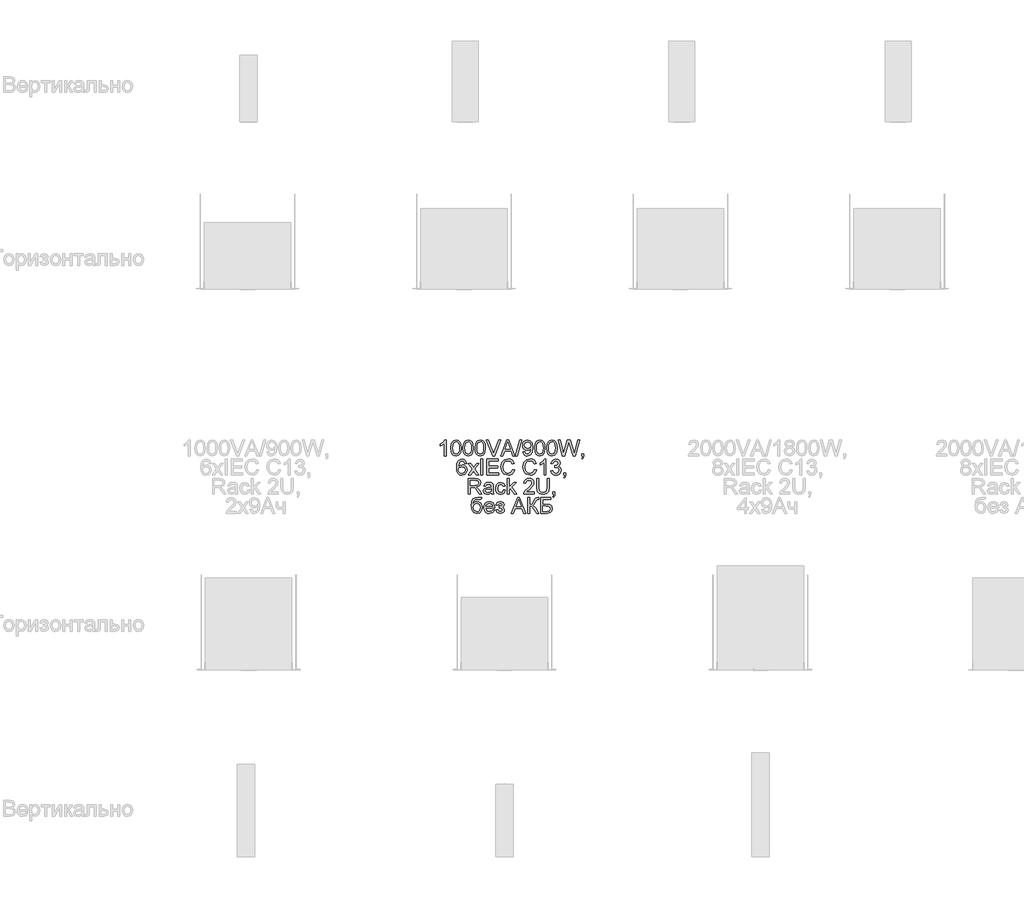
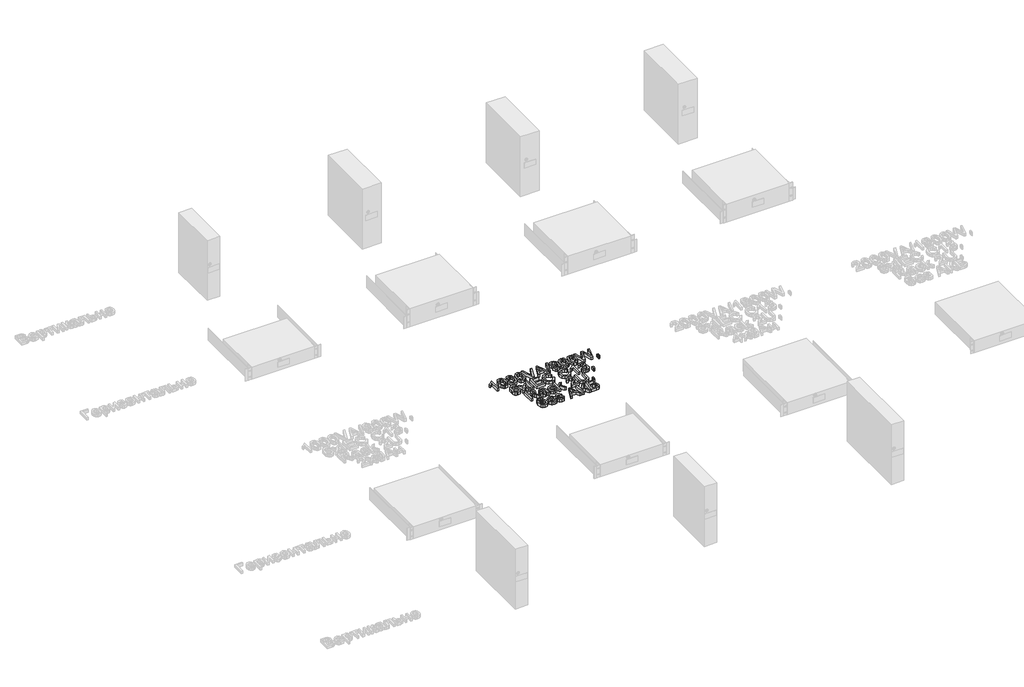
# One storey, part 66 of 74: 1 proxy.
"""IFC4 building model written with IfcOpenShell, lengths in millimetres."""

from ifc_helpers import new_model, si_unit, origin, origin_with_axes, place, context, project, spatial, polyline, outline, extrude, element, save

model = new_model("IFC4")

# Units and contexts
model_context = context("Model", 3, world=origin())
ifc_project = project(units=[si_unit("LENGTHUNIT", "METRE", prefix="MILLI")], contexts=[model_context])

# Site, building, storey
site = spatial("IfcSite", under=ifc_project)
building = spatial("IfcBuilding", under=site)
storey = spatial("IfcBuildingStorey", under=building, Name="Этаж 01", Elevation=0.0)

# Proxy
placement = place(None, origin())
element("IfcBuildingElementProxy", 1, Name="80 мм Arial", ObjectType="80 мм Arial", at=placement, inside=storey, context=model_context, shape_type="SweptSolid", body=[
    extrude(outline(polyline([(2356.0651374, 2262.3651415), (2346.0195064, 2262.3651415), (2346.0195064, 2324.9933724), (2336.5036255, 2318.2145335), (2325.9282444, 2313.142667), (2325.9282444, 2322.6389276), (2340.6533344, 2332.0370863), (2349.5904143, 2342.7301896), (2356.0651374, 2342.7301896), (2356.0651374, 2262.3651415)])), origin_with_axes(), (0.0, 0.0, 1.0), 20.0),
    extrude(outline(polyline([(2379.9235111, 2301.9001933), (2382.8763772, 2325.0228029), (2391.646684, 2338.3548465), (2406.2932925, 2342.7301896), (2418.0262756, 2340.1403004), (2426.1294897, 2332.6747484), (2430.8383792, 2320.7848024), (2432.6630739, 2301.9001933), (2429.7396383, 2278.8756855), (2420.9987621, 2265.5142114), (2406.2932925, 2261.1094377), (2395.855254, 2263.022424), (2387.9286233, 2268.7613832), (2381.9247891, 2282.3533966), (2379.9235111, 2301.9001933)]), holes=[polyline([(2389.9691421, 2301.9198136), (2391.1463645, 2286.1180557), (2394.6780316, 2276.9725093), (2406.2932925, 2271.1550687), (2417.9085534, 2276.9921297), (2421.4402205, 2286.1425811), (2422.6174429, 2301.9198136), (2421.4794613, 2317.3659524), (2418.0655163, 2326.5826226), (2412.8170665, 2331.1590746), (2406.1755703, 2332.6845586), (2394.8349946, 2327.3085764), (2391.1856052, 2317.5180102), (2389.9691421, 2301.9198136)])]), origin_with_axes(), (0.0, 0.0, 1.0), 20.0),
    extrude(outline(polyline([(2441.453001, 2301.9001933), (2444.4058672, 2325.0228029), (2453.176174, 2338.3548465), (2467.8227825, 2342.7301896), (2479.5557656, 2340.1403004), (2487.6589796, 2332.6747484), (2492.3678692, 2320.7848024), (2494.1925639, 2301.9001933), (2491.2691283, 2278.8756855), (2482.5282521, 2265.5142114), (2467.8227825, 2261.1094377), (2457.384744, 2263.022424), (2449.4581133, 2268.7613832), (2443.4542791, 2282.3533966), (2441.453001, 2301.9001933)]), holes=[polyline([(2451.4986321, 2301.9198136), (2452.6758544, 2286.1180557), (2456.2075216, 2276.9725093), (2467.8227825, 2271.1550687), (2479.4380433, 2276.9921297), (2482.9697105, 2286.1425811), (2484.1469329, 2301.9198136), (2483.0089512, 2317.3659524), (2479.5950063, 2326.5826226), (2474.3465565, 2331.1590746), (2467.7050602, 2332.6845586), (2456.3644846, 2327.3085764), (2452.7150952, 2317.5180102), (2451.4986321, 2301.9198136)])]), origin_with_axes(), (0.0, 0.0, 1.0), 20.0),
    extrude(outline(polyline([(2502.982491, 2301.9001933), (2505.9353572, 2325.0228029), (2514.7056639, 2338.3548465), (2529.3522724, 2342.7301896), (2541.0852555, 2340.1403004), (2549.1884696, 2332.6747484), (2553.8973591, 2320.7848024), (2555.7220538, 2301.9001933), (2552.7986183, 2278.8756855), (2544.0577421, 2265.5142114), (2529.3522724, 2261.1094377), (2518.914234, 2263.022424), (2510.9876032, 2268.7613832), (2504.9837691, 2282.3533966), (2502.982491, 2301.9001933)]), holes=[polyline([(2513.028122, 2301.9198136), (2514.2053444, 2286.1180557), (2517.7370116, 2276.9725093), (2529.3522724, 2271.1550687), (2540.9675333, 2276.9921297), (2544.4992004, 2286.1425811), (2545.6764228, 2301.9198136), (2544.5384412, 2317.3659524), (2541.1244963, 2326.5826226), (2535.8760465, 2331.1590746), (2529.2345502, 2332.6845586), (2517.8939746, 2327.3085764), (2514.2445852, 2317.5180102), (2513.028122, 2301.9198136)])]), origin_with_axes(), (0.0, 0.0, 1.0), 20.0),
    extrude(outline(polyline([(2592.019744, 2262.3651415), (2560.0385359, 2342.7301896), (2570.7905004, 2342.7301896), (2592.1963274, 2284.8304687), (2596.5324298, 2271.7829206), (2600.8096712, 2284.8304687), (2622.2743593, 2342.7301896), (2633.0263238, 2342.7301896), (2602.3989214, 2262.3651415), (2592.019744, 2262.3651415)])), origin_with_axes(), (0.0, 0.0, 1.0), 20.0),
    extrude(outline(polyline([(2633.0067034, 2262.3651415), (2665.0860134, 2342.7301896), (2673.640496, 2342.7301896), (2705.719806, 2262.3651415), (2695.1051842, 2262.3651415), (2685.9032292, 2287.4792191), (2652.8036598, 2287.4792191), (2643.6213252, 2262.3651415), (2633.0067034, 2262.3651415)]), holes=[polyline([(2656.49229, 2297.5248501), (2682.2342194, 2297.5248501), (2674.9943018, 2317.2825658), (2669.3632547, 2332.6845586), (2664.3600596, 2319.0091586), (2656.49229, 2297.5248501)])]), origin_with_axes(), (0.0, 0.0, 1.0), 20.0),
    extrude(outline(polyline([(2707.6622229, 2262.3651415), (2730.2648927, 2342.7301896), (2739.3295051, 2342.7301896), (2716.7268353, 2262.3651415), (2707.6622229, 2262.3651415)])), origin_with_axes(), (0.0, 0.0, 1.0), 20.0),
    extrude(outline(polyline([(2745.3333393, 2282.4564036), (2755.3789703, 2283.7121074), (2759.8916561, 2274.1275552), (2768.4461387, 2271.1550687), (2776.5787834, 2273.068055), (2782.0921082, 2278.1791622), (2785.3785207, 2286.9102282), (2786.8304283, 2298.5647299), (2786.7715672, 2300.5267672), (2778.7370244, 2292.9140624), (2767.7201849, 2289.9906268), (2758.5599233, 2291.7760808), (2750.9349558, 2297.1324426), (2745.7919655, 2305.407335), (2744.0776354, 2315.9483804), (2745.8753521, 2326.8376875), (2751.2685021, 2335.3725497), (2759.3692636, 2340.8907797), (2769.2898148, 2342.7301896), (2783.6028769, 2338.5314298), (2793.4523042, 2326.5630022), (2796.8171982, 2304.0780547), (2793.4621144, 2279.6801208), (2783.4851547, 2265.8575679), (2767.9752498, 2261.1094377), (2759.3864315, 2262.5098418), (2752.5340162, 2266.7110542), (2745.3333393, 2282.4564036)]), holes=[polyline([(2786.7715672, 2316.1838249), (2782.4354647, 2328.2307339), (2770.9183057, 2332.6845586), (2758.8321559, 2327.8873774), (2754.1232664, 2315.4578711), (2758.5770911, 2304.3233094), (2770.6436205, 2300.0362578), (2782.2294508, 2304.3233094), (2786.7715672, 2316.1838249)])]), origin_with_axes(), (0.0, 0.0, 1.0), 20.0),
    extrude(outline(polyline([(2805.6071253, 2301.9001933), (2808.5599915, 2325.0228029), (2817.3302983, 2338.3548465), (2831.9769068, 2342.7301896), (2843.7098899, 2340.1403004), (2851.8131039, 2332.6747484), (2856.5219935, 2320.7848024), (2858.3466882, 2301.9001933), (2855.4232526, 2278.8756855), (2846.6823764, 2265.5142114), (2831.9769068, 2261.1094377), (2821.5388683, 2263.022424), (2813.6122376, 2268.7613832), (2807.6084034, 2282.3533966), (2805.6071253, 2301.9001933)]), holes=[polyline([(2815.6527564, 2301.9198136), (2816.8299787, 2286.1180557), (2820.3616459, 2276.9725093), (2831.9769068, 2271.1550687), (2843.5921676, 2276.9921297), (2847.1238348, 2286.1425811), (2848.3010572, 2301.9198136), (2847.1630755, 2317.3659524), (2843.7491306, 2326.5826226), (2838.5006808, 2331.1590746), (2831.8591845, 2332.6845586), (2820.5186089, 2327.3085764), (2816.8692195, 2317.5180102), (2815.6527564, 2301.9198136)])]), origin_with_axes(), (0.0, 0.0, 1.0), 20.0),
    extrude(outline(polyline([(2867.1366153, 2301.9001933), (2870.0894815, 2325.0228029), (2878.8597882, 2338.3548465), (2893.5063967, 2342.7301896), (2905.2393798, 2340.1403004), (2913.3425939, 2332.6747484), (2918.0514834, 2320.7848024), (2919.8761781, 2301.9001933), (2916.9527425, 2278.8756855), (2908.2118663, 2265.5142114), (2893.5063967, 2261.1094377), (2883.0683582, 2263.022424), (2875.1417275, 2268.7613832), (2869.1378934, 2282.3533966), (2867.1366153, 2301.9001933)]), holes=[polyline([(2877.1822463, 2301.9198136), (2878.3594687, 2286.1180557), (2881.8911359, 2276.9725093), (2893.5063967, 2271.1550687), (2905.1216576, 2276.9921297), (2908.6533247, 2286.1425811), (2909.8305471, 2301.9198136), (2908.6925655, 2317.3659524), (2905.2786206, 2326.5826226), (2900.0301708, 2331.1590746), (2893.3886745, 2332.6845586), (2882.0480988, 2327.3085764), (2878.3987095, 2317.5180102), (2877.1822463, 2301.9198136)])]), origin_with_axes(), (0.0, 0.0, 1.0), 20.0),
    extrude(outline(polyline([(2946.8149504, 2262.3651415), (2924.8989936, 2342.7301896), (2935.2585506, 2342.7301896), (2947.9725524, 2289.9121453), (2951.896627, 2273.6076153), (2956.0953868, 2288.0285895), (2972.0271298, 2342.7301896), (2986.9582337, 2342.7301896), (2998.5342538, 2303.0774157), (3007.1475976, 2273.6076153), (3010.95395, 2289.4412564), (3023.7856739, 2342.7301896), (3034.1452309, 2342.7301896), (3012.2096538, 2262.3651415), (3001.4773098, 2262.3651415), (2982.2101034, 2324.3655204), (2979.5221123, 2333.018105), (2976.5005748, 2322.5996869), (2958.9403409, 2262.3651415), (2946.8149504, 2262.3651415)])), origin_with_axes(), (0.0, 0.0, 1.0), 20.0),
    extrude(outline(polyline([(3045.4465658, 2262.3651415), (3045.4465658, 2272.4107725), (3055.4921968, 2272.4107725), (3055.4921968, 2262.3651415), (3053.6871225, 2252.0938762), (3047.9579736, 2246.0409911), (3045.4465658, 2249.8081028), (3049.135196, 2254.1442052), (3050.449761, 2262.3651415), (3045.4465658, 2262.3651415)])), origin_with_axes(), (0.0, 0.0, 1.0), 20.0),
    extrude(outline(polyline([(2461.5442631, 2223.8033695), (2451.4986321, 2222.5476656), (2447.6922797, 2230.9255649), (2437.6270283, 2235.1047044), (2428.5624159, 2232.6717781), (2421.7050955, 2223.5384944), (2418.8503313, 2205.634904), (2427.7089297, 2213.6498264), (2438.6865284, 2216.2691462), (2447.9669649, 2214.4787872), (2455.756253, 2209.10771), (2461.0390385, 2200.901489), (2462.799967, 2190.6056982), (2459.4841239, 2176.7439046), (2450.3606504, 2166.9337181), (2437.1953801, 2163.5295834), (2425.7983959, 2165.7859263), (2416.7215208, 2172.554955), (2410.7839054, 2184.5037622), (2408.8047003, 2202.2994406), (2411.002182, 2222.307316), (2417.5946274, 2235.9876211), (2426.5954735, 2242.8596568), (2438.2548802, 2245.1503354), (2447.0693328, 2243.7327634), (2454.1277621, 2239.4800476), (2461.5442631, 2223.8033695)]), holes=[polyline([(2418.8503313, 2190.7626612), (2421.1753455, 2182.0610257), (2427.355763, 2175.7432656), (2436.4105652, 2173.5752144), (2448.2514603, 2178.0682798), (2452.7543359, 2190.2721519), (2448.3103214, 2201.956084), (2435.9985373, 2206.2235152), (2423.8437162, 2201.956084), (2418.8503313, 2190.7626612)])]), origin_with_axes(), (0.0, 0.0, 1.0), 20.0),
    extrude(outline(polyline([(2467.8227825, 2164.7852873), (2489.2874706, 2194.4512913), (2469.0784863, 2223.8033695), (2481.1646362, 2223.8033695), (2490.9159616, 2209.6767009), (2495.4678881, 2203.005774), (2499.4115831, 2208.4602377), (2510.5167143, 2223.8033695), (2522.6028641, 2223.8033695), (2501.3736204, 2194.4512913), (2521.8180492, 2164.7852873), (2509.7318994, 2164.7852873), (2497.4299254, 2182.6202064), (2495.1735825, 2185.8771883), (2479.9089323, 2164.7852873), (2467.8227825, 2164.7852873)])), origin_with_axes(), (0.0, 0.0, 1.0), 20.0),
    extrude(outline(polyline([(2533.1193841, 2164.7852873), (2533.1193841, 2245.1503354), (2543.1650151, 2245.1503354), (2543.1650151, 2164.7852873), (2533.1193841, 2164.7852873)])), origin_with_axes(), (0.0, 0.0, 1.0), 20.0),
    extrude(outline(polyline([(2563.2562771, 2164.7852873), (2563.2562771, 2245.1503354), (2621.0186554, 2245.1503354), (2621.0186554, 2235.1047044), (2573.3019081, 2235.1047044), (2573.3019081, 2211.2463307), (2618.5072477, 2211.2463307), (2618.5072477, 2201.2006997), (2573.3019081, 2201.2006997), (2573.3019081, 2174.8309183), (2622.2743593, 2174.8309183), (2622.2743593, 2164.7852873), (2563.2562771, 2164.7852873)])), origin_with_axes(), (0.0, 0.0, 1.0), 20.0),
    extrude(outline(polyline([(2693.8494803, 2193.3525505), (2703.8951113, 2190.7626612), (2699.2597982, 2179.0566561), (2691.9855449, 2170.504626), (2682.4304232, 2165.273344), (2670.9525049, 2163.5295834), (2650.0469974, 2168.8074637), (2637.7842642, 2184.0917344), (2633.5756942, 2205.5760429), (2638.3336347, 2227.4135181), (2651.8618819, 2241.5696173), (2671.168329, 2246.4060392), (2682.182716, 2244.8413145), (2691.2890216, 2240.1471402), (2698.2027506, 2232.612917), (2702.6394074, 2222.5280452), (2692.5937764, 2220.1343597), (2684.3532197, 2232.4853846), (2670.7759216, 2236.3604082), (2655.0600027, 2232.0635465), (2646.1817839, 2220.5267672), (2643.6213252, 2205.5956633), (2646.6526729, 2188.2904942), (2656.0900723, 2177.234414), (2669.9518659, 2173.5752144), (2685.3244282, 2178.5587892), (2693.8494803, 2193.3525505)])), origin_with_axes(), (0.0, 0.0, 1.0), 20.0),
    extrude(outline(polyline([(2805.6071253, 2193.3525505), (2815.6527564, 2190.7626612), (2811.0174432, 2179.0566561), (2803.7431899, 2170.504626), (2794.1880682, 2165.273344), (2782.71015, 2163.5295834), (2761.8046424, 2168.8074637), (2749.5419093, 2184.0917344), (2745.3333393, 2205.5760429), (2750.0912797, 2227.4135181), (2763.619527, 2241.5696173), (2782.9259741, 2246.4060392), (2793.940361, 2244.8413145), (2803.0466667, 2240.1471402), (2809.9603956, 2232.612917), (2814.3970525, 2222.5280452), (2804.3514215, 2220.1343597), (2796.1108648, 2232.4853846), (2782.5335666, 2236.3604082), (2766.8176478, 2232.0635465), (2757.939429, 2220.5267672), (2755.3789703, 2205.5956633), (2758.4103179, 2188.2904942), (2767.8477174, 2177.234414), (2781.7095109, 2173.5752144), (2797.0820732, 2178.5587892), (2805.6071253, 2193.3525505)])), origin_with_axes(), (0.0, 0.0, 1.0), 20.0),
    extrude(outline(polyline([(2863.3695037, 2164.7852873), (2853.3238727, 2164.7852873), (2853.3238727, 2227.4135181), (2843.8079917, 2220.6346792), (2833.2326106, 2215.5628128), (2833.2326106, 2225.0590733), (2847.9577006, 2234.457232), (2856.8947806, 2245.1503354), (2863.3695037, 2245.1503354), (2863.3695037, 2164.7852873)])), origin_with_axes(), (0.0, 0.0, 1.0), 20.0),
    extrude(outline(polyline([(2887.2278773, 2186.1322532), (2897.2735084, 2187.387957), (2902.8162637, 2176.8125759), (2913.1856309, 2173.5752144), (2925.389503, 2178.0290391), (2929.9218092, 2189.0556887), (2925.4287437, 2199.4446763), (2914.0096866, 2203.5551445), (2906.9659727, 2202.4564036), (2908.0843339, 2212.5020346), (2909.6932045, 2212.3843123), (2921.0926413, 2215.2685072), (2926.1546975, 2224.1369158), (2922.4856878, 2231.9948752), (2913.0286679, 2235.1047044), (2903.4539259, 2231.9654447), (2898.5292122, 2222.5476656), (2888.4835812, 2223.8033695), (2896.7045175, 2239.558529), (2912.6755012, 2245.1503354), (2924.7910816, 2242.393673), (2933.2670828, 2234.8594497), (2936.2003285, 2224.725527), (2933.4142356, 2215.4647109), (2925.1736789, 2208.8134044), (2936.121847, 2201.9462739), (2939.9674402, 2188.8791054), (2938.0446436, 2179.0885392), (2932.2762539, 2170.9068437), (2923.5697134, 2165.3738984), (2912.8324642, 2163.5295834), (2903.1203795, 2165.1041183), (2895.2133692, 2169.8277231), (2889.7147596, 2177.0529255), (2887.2278773, 2186.1322532)])), origin_with_axes(), (0.0, 0.0, 1.0), 20.0),
    extrude(outline(polyline([(2953.7801828, 2164.7852873), (2953.7801828, 2174.8309183), (2963.8258138, 2174.8309183), (2963.8258138, 2164.7852873), (2962.0207395, 2154.5140219), (2956.2915906, 2148.4611369), (2953.7801828, 2152.2282485), (2957.468813, 2156.5643509), (2958.7833779, 2164.7852873), (2953.7801828, 2164.7852873)])), origin_with_axes(), (0.0, 0.0, 1.0), 20.0),
    extrude(outline(polyline([(2469.0784863, 2067.205433), (2469.0784863, 2147.5704811), (2503.7084448, 2147.5704811), (2519.7873406, 2145.4024299), (2528.5772677, 2137.730864), (2531.8636802, 2125.5760429), (2526.4190267, 2111.0962075), (2509.5945567, 2103.6208454), (2515.3040853, 2099.3239837), (2523.4465401, 2088.9840471), (2536.8472549, 2067.205433), (2525.173133, 2067.205433), (2514.7154741, 2083.8631297), (2507.1616305, 2094.8897794), (2501.8543196, 2100.0989884), (2497.0767587, 2102.0119748), (2491.2495079, 2102.3651415), (2479.1241174, 2102.3651415), (2479.1241174, 2067.205433), (2469.0784863, 2067.205433)]), holes=[polyline([(2479.1241174, 2112.4107725), (2501.6090649, 2112.4107725), (2513.077173, 2113.8332496), (2519.5911368, 2118.3851761), (2521.8180492, 2125.2032558), (2517.5702384, 2134.052044), (2504.140093, 2137.5248501), (2479.1241174, 2137.5248501), (2479.1241174, 2112.4107725)])]), origin_with_axes(), (0.0, 0.0, 1.0), 20.0),
    extrude(outline(polyline([(2585.8589469, 2074.7396562), (2576.1174317, 2067.9313868), (2565.355657, 2065.9497291), (2550.7679096, 2070.7174798), (2545.6764228, 2082.9017314), (2547.5992194, 2090.8479825), (2552.6514655, 2096.6163722), (2559.6853692, 2099.9125949), (2568.3771945, 2101.4233636), (2585.8000858, 2104.8765493), (2585.8589469, 2107.1132718), (2583.0924743, 2114.5297728), (2571.9873431, 2117.4335881), (2561.8239899, 2115.5009813), (2556.9777577, 2108.6436609), (2546.9321267, 2109.8993648), (2551.2780393, 2119.7095513), (2560.0287257, 2125.4583206), (2573.2822877, 2127.4792191), (2585.4567292, 2125.6937651), (2592.33367, 2121.2105099), (2595.4140686, 2114.3924302), (2595.9045779, 2105.6025031), (2595.9045779, 2093.1043254), (2596.4147076, 2075.6520036), (2598.4159857, 2067.205433), (2588.3703546, 2067.205433), (2585.8589469, 2074.7396562)]), holes=[polyline([(2585.8589469, 2094.8309183), (2569.6525187, 2091.7505197), (2561.0097444, 2090.1220287), (2557.09548, 2087.4732784), (2555.7220538, 2083.6080649), (2558.7141607, 2078.1732215), (2567.4942777, 2075.9953601), (2577.6576309, 2078.3988558), (2584.2108356, 2084.2162964), (2585.8000858, 2091.9859642), (2585.8589469, 2094.8309183)])]), origin_with_axes(), (0.0, 0.0, 1.0), 20.0),
    extrude(outline(polyline([(2647.3884369, 2088.5523989), (2657.4340679, 2087.296695), (2654.6332596, 2078.3620676), (2649.3700945, 2071.6102067), (2633.4383516, 2065.9497291), (2622.7526059, 2067.9240291), (2614.3967795, 2073.8469293), (2609.0036295, 2083.4584595), (2607.2059128, 2096.49865), (2610.2765012, 2113.1857773), (2619.6354191, 2123.9083112), (2633.301009, 2127.4792191), (2648.5754694, 2122.5741258), (2656.178364, 2108.6436609), (2646.132733, 2107.387957), (2641.4728944, 2114.9123701), (2633.3794905, 2117.4335881), (2621.7347991, 2112.4696337), (2617.2515438, 2096.7733352), (2621.6366972, 2080.9298839), (2633.1048053, 2075.9953601), (2642.5716353, 2079.0757587), (2647.3884369, 2088.5523989)])), origin_with_axes(), (0.0, 0.0, 1.0), 20.0),
    extrude(outline(polyline([(2666.223995, 2067.205433), (2666.223995, 2147.5704811), (2676.269626, 2147.5704811), (2676.269626, 2104.38604), (2698.7938143, 2126.2235152), (2712.6850385, 2126.2235152), (2689.8861649, 2104.1113547), (2713.9407423, 2067.205433), (2702.2077592, 2067.205433), (2682.685488, 2097.1265019), (2676.269626, 2090.9068437), (2676.269626, 2067.205433), (2666.223995, 2067.205433)])), origin_with_axes(), (0.0, 0.0, 1.0), 20.0),
    extrude(outline(polyline([(2803.0957176, 2077.251064), (2803.0957176, 2067.205433), (2750.3561548, 2067.205433), (2751.4352753, 2074.1314247), (2757.5372113, 2084.7950974), (2770.1138704, 2096.4397889), (2787.4582802, 2113.1759671), (2791.7943827, 2124.5557835), (2787.7035349, 2133.7675486), (2777.0202418, 2137.5248501), (2765.88568, 2133.8558403), (2761.6574897, 2123.7121074), (2751.6118586, 2124.9678113), (2754.0472374, 2134.6848011), (2759.3128551, 2141.782471), (2767.1340263, 2146.1234786), (2777.2360659, 2147.5704811), (2787.4116819, 2145.9616105), (2795.2181378, 2141.1349987), (2800.1845447, 2133.9245116), (2801.8400137, 2125.164015), (2800.0545598, 2115.6383239), (2794.1193969, 2105.7888966), (2779.7278533, 2092.0252049), (2768.1714535, 2082.3621712), (2763.6391473, 2077.251064), (2803.0957176, 2077.251064)])), origin_with_axes(), (0.0, 0.0, 1.0), 20.0),
    extrude(outline(polyline([(2869.6480231, 2147.5704811), (2879.6936541, 2147.5704811), (2879.6936541, 2101.2075395), (2876.9664222, 2081.9893841), (2867.1366153, 2070.413364), (2848.4972609, 2065.9497291), (2830.1424019, 2069.834563), (2819.9594282, 2081.0868469), (2816.9084602, 2101.2075395), (2816.9084602, 2147.5704811), (2826.9540912, 2147.5704811), (2826.9540912, 2101.5607062), (2828.9357489, 2086.247005), (2835.7440184, 2078.6637309), (2847.555483, 2075.9953601), (2857.7727923, 2077.3148302), (2864.5663464, 2081.2732405), (2868.3776039, 2088.9840471), (2869.6480231, 2101.5607062), (2869.6480231, 2147.5704811)])), origin_with_axes(), (0.0, 0.0, 1.0), 20.0),
    extrude(outline(polyline([(2898.5292122, 2067.205433), (2898.5292122, 2077.251064), (2908.5748432, 2077.251064), (2908.5748432, 2067.205433), (2906.7697689, 2056.9341677), (2901.04062, 2050.8812826), (2898.5292122, 2054.6483942), (2902.2178424, 2058.9844967), (2903.5324074, 2067.205433), (2898.5292122, 2067.205433)])), origin_with_axes(), (0.0, 0.0, 1.0), 20.0),
    extrude(outline(polyline([(2528.7244205, 2051.2463307), (2537.5143476, 2051.2463307), (2534.9244584, 2043.4079917), (2529.803541, 2040.5728477), (2517.5015671, 2039.9449958), (2500.932162, 2037.6297918), (2494.5751612, 2030.2132908), (2492.4267303, 2017.0872612), (2501.1283658, 2026.701244), (2512.341409, 2029.8993648), (2522.7941627, 2027.8662036), (2531.275069, 2021.7667201), (2536.8963059, 2012.1993357), (2538.7700515, 1999.7624717), (2535.0519908, 1982.4769231), (2526.2326331, 1972.0486948), (2512.341409, 1968.3698748), (2496.4783373, 1973.1081949), (2487.7963223, 1985.2335855), (2484.7747848, 2010.9657048), (2486.6804135, 2030.2402688), (2492.3972997, 2041.9953248), (2502.0676911, 2047.9918013), (2515.8338354, 2049.9906268), (2527.017448, 2050.2162611), (2528.7244205, 2051.2463307)]), holes=[polyline([(2528.7244205, 2000.0763977), (2524.3686977, 2014.3109784), (2519.1202479, 2018.4680449), (2512.0863441, 2019.8537338), (2504.7532297, 2018.3895634), (2499.3134813, 2013.9970524), (2494.8204158, 1998.3498049), (2499.7843702, 1983.5462334), (2512.027483, 1978.4155058), (2518.7621761, 1979.8992966), (2524.0940124, 1984.3506687), (2528.7244205, 2000.0763977)])]), origin_with_axes(), (0.0, 0.0, 1.0), 20.0),
    extrude(outline(polyline([(2592.647596, 1987.205433), (2602.4970233, 1985.9497291), (2593.2852581, 1972.9806625), (2576.1272418, 1968.3698748), (2564.3403027, 1970.3588901), (2555.2707853, 1976.3259361), (2549.4876803, 1985.8835103), (2547.5599786, 1998.6441105), (2549.5073007, 2011.8339063), (2555.3492668, 2021.6980488), (2564.2961569, 2027.8490358), (2575.558251, 2029.8993648), (2586.469631, 2027.8539409), (2595.1884343, 2021.7176692), (2600.9053205, 2011.873147), (2602.8109492, 1998.7029716), (2602.7520881, 1995.9953601), (2557.6056097, 1995.9953601), (2563.3838095, 1982.947812), (2576.3234456, 1978.4155058), (2586.1728729, 1980.5148858), (2592.647596, 1987.205433)]), holes=[polyline([(2557.6056097, 2006.0409911), (2592.7653182, 2006.0409911), (2588.7431417, 2015.1448442), (2575.5190103, 2019.8537338), (2563.1483651, 2016.0964323), (2557.6056097, 2006.0409911)])]), origin_with_axes(), (0.0, 0.0, 1.0), 20.0),
    extrude(outline(polyline([(2626.6693229, 1995.9953601), (2626.6693229, 2006.0409911), (2634.5959536, 2006.4333986), (2638.5985097, 2008.5229683), (2640.4820655, 2012.8885013), (2637.9608476, 2017.9603678), (2631.4566939, 2019.8537338), (2624.7367161, 2017.970178), (2620.3908035, 2012.3195105), (2609.0894686, 2013.5752144), (2616.6433122, 2025.8183272), (2630.4364345, 2029.8993648), (2645.1909551, 2024.9256002), (2650.5276965, 2013.0454643), (2648.6294255, 2006.8061857), (2642.9346122, 2001.9795739), (2649.5761085, 1995.7206749), (2651.7834004, 1986.7149236), (2650.3829963, 1979.3204955), (2646.1817839, 1973.4613616), (2630.514916, 1968.3698748), (2615.0638722, 1973.0787644), (2607.8337647, 1987.205433), (2619.1350996, 1988.4611369), (2623.6674058, 1981.0446358), (2631.4763143, 1978.4155058), (2638.8143338, 1980.9367238), (2641.7377694, 1987.3820163), (2639.9228849, 1992.6598967), (2636.0576714, 1995.4852304), (2628.6313602, 1996.0542212), (2626.6693229, 1995.9953601)])), origin_with_axes(), (0.0, 0.0, 1.0), 20.0),
    extrude(outline(polyline([(2687.629822, 1969.6255787), (2719.709132, 2049.9906268), (2728.2636147, 2049.9906268), (2760.3429247, 1969.6255787), (2749.7283028, 1969.6255787), (2740.5263478, 1994.7396562), (2707.4267785, 1994.7396562), (2698.2444439, 1969.6255787), (2687.629822, 1969.6255787)]), holes=[polyline([(2711.1154086, 2004.7852873), (2736.8573381, 2004.7852873), (2729.6174204, 2024.5430029), (2723.9863733, 2039.9449958), (2718.9831782, 2026.2695958), (2711.1154086, 2004.7852873)])]), origin_with_axes(), (0.0, 0.0, 1.0), 20.0),
    extrude(outline(polyline([(2771.0752687, 2049.9906268), (2781.1208997, 2049.9906268), (2781.1208997, 2014.8309183), (2792.3535633, 2017.4894788), (2800.1919024, 2030.9392446), (2805.7346578, 2042.1719081), (2812.0131772, 2047.7342839), (2820.9894978, 2049.9906268), (2827.5819432, 2049.8729046), (2827.5819432, 2039.8272736), (2825.364841, 2039.8861347), (2823.1477389, 2039.9449958), (2815.2995896, 2037.5316899), (2809.3349962, 2027.1917533), (2802.222611, 2014.5954738), (2795.2868091, 2010.4359547), (2803.0417616, 2005.8938383), (2810.688802, 1996.4270083), (2827.5819432, 1969.6255787), (2815.9274416, 1969.6255787), (2801.64381, 1992.2674892), (2791.5883688, 2004.088764), (2781.1208997, 2007.296695), (2781.1208997, 1969.6255787), (2771.0752687, 1969.6255787), (2771.0752687, 2049.9906268)])), origin_with_axes(), (0.0, 0.0, 1.0), 20.0),
    extrude(outline(polyline([(2836.3718703, 2049.9906268), (2886.6000254, 2049.9906268), (2886.6000254, 2039.9449958), (2846.4175013, 2039.9449958), (2846.4175013, 2016.0866221), (2865.2334391, 2016.0866221), (2881.8126544, 2014.0461033), (2891.681702, 2006.3352967), (2895.3899525, 1993.150406), (2892.7510124, 1981.7019183), (2884.8734326, 1973.0002829), (2867.0385134, 1969.6255787), (2836.3718703, 1969.6255787), (2836.3718703, 2049.9906268)]), holes=[polyline([(2846.4175013, 1979.6712097), (2867.9410506, 1979.6712097), (2880.9885987, 1982.9870528), (2885.3443215, 1992.9345819), (2882.8525341, 2000.8023515), (2875.9167323, 2005.0011114), (2860.7796144, 2006.0409911), (2846.4175013, 2006.0409911), (2846.4175013, 1979.6712097)])]), origin_with_axes(), (0.0, 0.0, 1.0), 20.0),
])

save(model, "model.ifc")
